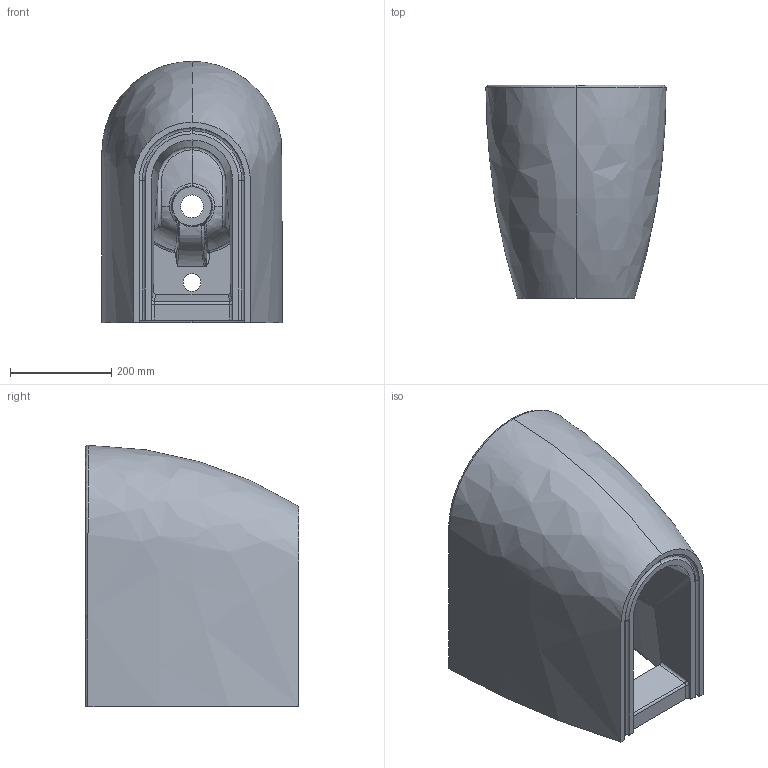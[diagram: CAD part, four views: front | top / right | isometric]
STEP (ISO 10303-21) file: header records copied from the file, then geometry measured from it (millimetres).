
FILE_DESCRIPTION (( 'STEP AP203' ), '1' );
FILE_NAME ('FE500.STEP', '2022-04-13T06:34:11', ( '' ), ( '' ), 'SwSTEP 2.0', 'SolidWorks 2021', '' );
FILE_SCHEMA (( 'CONFIG_CONTROL_DESIGN' ));
Products named in the file (1): FE500
Bounding box: 354.98 x 420 x 514.98 mm (x, y, z)
Volume: 29888256.9 mm3; surface area: 1314258 mm2
Topology: 2 solids, 4 shells, 253 faces, 707 edges, 444 vertices
Faces by surface type: bspline 135, plane 58, cylinder 34, sphere 12, cone 12, torus 2
Entity records: 74011 total; most frequent: CARTESIAN_POINT 68769, ORIENTED_EDGE 1380, EDGE_CURVE 690, DIRECTION 637, VERTEX_POINT 442, B_SPLINE_CURVE_WITH_KNOTS 391, EDGE_LOOP 258, ADVANCED_FACE 253
